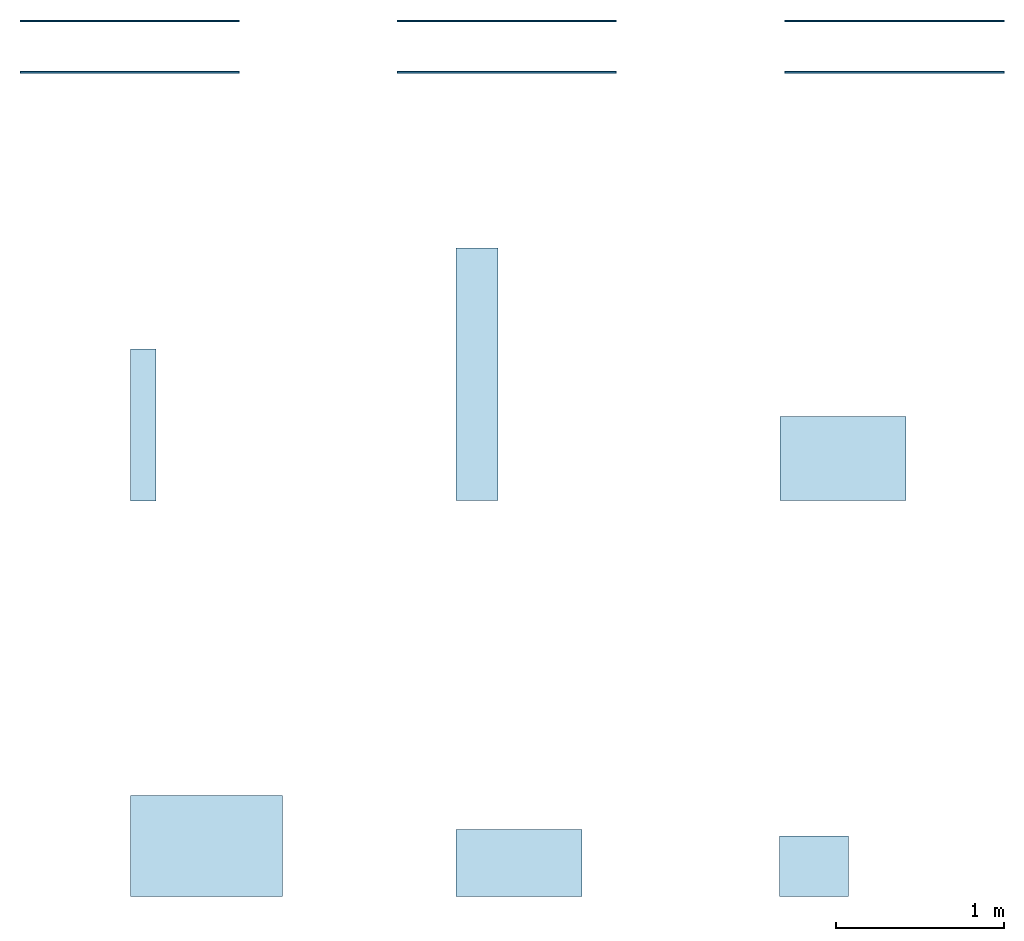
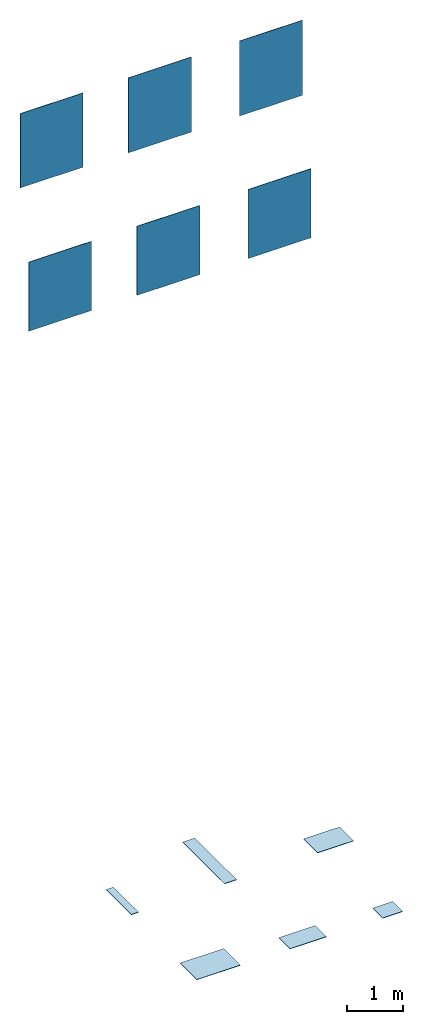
# One storey: 6 slabs, 6 walls.
"""IFC2X3 building model written with IfcOpenShell, lengths in millimetres."""

from ifc_helpers import new_model, entity, si_unit, converted_unit, derived_unit, direction, frame, frame_2d, origin, place, context, subcontext, project, spatial, rectangle, extrude, material, layer, layer_set, layer_usage, type_object, element, save


model = new_model("IFC2X3")

# Units and contexts
model_context = context("Model", 3, precision=0.01, world=origin(), true_north=direction((6.12303176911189e-17, 1.0)))
body_context = subcontext(model_context, "Body", "Model", "MODEL_VIEW")
ifc_project = project(units=[si_unit("LENGTHUNIT", "METRE", prefix="MILLI"), si_unit("AREAUNIT", "SQUARE_METRE"), si_unit("VOLUMEUNIT", "CUBIC_METRE"), converted_unit("PLANEANGLEUNIT", "DEGREE", entity("IfcRatioMeasure", 0.0174532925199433), si_unit("PLANEANGLEUNIT", "RADIAN"), dimensions=[0, 0, 0, 0, 0, 0, 0]), si_unit("MASSUNIT", "GRAM", prefix="KILO"), derived_unit("MASSDENSITYUNIT", [(si_unit("MASSUNIT", "GRAM", prefix="KILO"), 1), (si_unit("LENGTHUNIT", "METRE"), -3)]), derived_unit("MOMENTOFINERTIAUNIT", [(si_unit("LENGTHUNIT", "METRE"), 4)]), si_unit("TIMEUNIT", "SECOND"), si_unit("FREQUENCYUNIT", "HERTZ"), si_unit("THERMODYNAMICTEMPERATUREUNIT", "DEGREE_CELSIUS"), derived_unit("THERMALTRANSMITTANCEUNIT", [(si_unit("MASSUNIT", "GRAM", prefix="KILO"), 1), (si_unit("THERMODYNAMICTEMPERATUREUNIT", "KELVIN"), -1), (si_unit("TIMEUNIT", "SECOND"), -3)]), derived_unit("VOLUMETRICFLOWRATEUNIT", [(si_unit("LENGTHUNIT", "METRE"), 3), (si_unit("TIMEUNIT", "SECOND"), -1)]), si_unit("ELECTRICCURRENTUNIT", "AMPERE"), si_unit("ELECTRICVOLTAGEUNIT", "VOLT"), si_unit("POWERUNIT", "WATT"), si_unit("FORCEUNIT", "NEWTON", prefix="KILO"), si_unit("ILLUMINANCEUNIT", "LUX"), si_unit("LUMINOUSFLUXUNIT", "LUMEN"), si_unit("LUMINOUSINTENSITYUNIT", "CANDELA"), derived_unit("USERDEFINED", [(si_unit("MASSUNIT", "GRAM", prefix="KILO"), -1), (si_unit("LENGTHUNIT", "METRE"), -2), (si_unit("TIMEUNIT", "SECOND"), 3), (si_unit("LUMINOUSFLUXUNIT", "LUMEN"), 1)]), derived_unit("LINEARVELOCITYUNIT", [(si_unit("LENGTHUNIT", "METRE"), 1), (si_unit("TIMEUNIT", "SECOND"), -1)]), si_unit("PRESSUREUNIT", "PASCAL"), derived_unit("USERDEFINED", [(si_unit("LENGTHUNIT", "METRE"), -2), (si_unit("MASSUNIT", "GRAM", prefix="KILO"), 1), (si_unit("TIMEUNIT", "SECOND"), -2)]), derived_unit("LINEARFORCEUNIT", [(si_unit("MASSUNIT", "GRAM", prefix="KILO"), 1), (si_unit("LENGTHUNIT", "METRE"), 1), (si_unit("TIMEUNIT", "SECOND"), -2), (si_unit("LENGTHUNIT", "METRE"), -1)]), derived_unit("PLANARFORCEUNIT", [(si_unit("MASSUNIT", "GRAM", prefix="KILO"), 1), (si_unit("LENGTHUNIT", "METRE"), 1), (si_unit("TIMEUNIT", "SECOND"), -2), (si_unit("LENGTHUNIT", "METRE"), -2)])], contexts=[model_context])

# Site, building, storey
site_placement = place(None, origin())
site = spatial("IfcSite", under=ifc_project, at=site_placement, Name="Default", CompositionType="ELEMENT")
building_placement = place(site_placement, origin())
building = spatial("IfcBuilding", under=site, at=building_placement, CompositionType="ELEMENT")
storey_placement = place(building_placement, origin())
storey = spatial("IfcBuildingStorey", under=building, at=storey_placement, Name="Level 0", CompositionType="ELEMENT", Elevation=0.0)

# Slabs
ifc_material_1 = material(Name="Cortina-Natural-25x150 OF82")
ifc_layer_1 = layer(ifc_material_1, 9.0)
ifc_material_2 = material(Name="<Unnamed>")
ifc_layer_2 = layer(ifc_material_2, 1.0)
ifc_layer_set_1 = layer_set([ifc_layer_1, ifc_layer_2], Name="Floor:Floor_Tiles_Refin-Cortina-Natural-25x150 OF82")
ifc_layer_usage_1 = layer_usage(ifc_layer_set_1, "AXIS3", "POSITIVE", 0.0)
slab_type_1 = type_object("IfcSlabType", Name="Floor:Floor_Tiles_Refin-Cortina-Natural-25x150 OF82", PredefinedType="FLOOR", material=ifc_layer_set_1)
slab_1_placement = place(storey_placement, origin())
element("IfcSlab", 1, at=slab_1_placement, inside=storey, type_object=slab_type_1, material=ifc_layer_usage_1, Name="Floor:Floor_Tiles_Refin-Cortina-Natural-25x150 OF82", ObjectType="Floor:Floor_Tiles_Refin-Cortina-Natural-25x150 OF82", PredefinedType="FLOOR", context=body_context, shape_type="SweptSolid", body=[
    extrude(rectangle(XDim=1500.0, YDim=249.999999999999, at=frame_2d((5.11590769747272e-13, 0.0), x_axis=(1.0, 0.0))), frame((8629.16894258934, 6039.46237428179, 0.0), z_axis=(0.0, 0.0, -1.0), x_axis=(0.0, 1.0, 0.0)), (0.0, 0.0, 1.0), 10.0),
])
ifc_material_3 = material(Name="Cortina-Natural-Esagono-25x21.6 OG74")
ifc_layer_3 = layer(ifc_material_3, 9.0)
ifc_layer_4 = layer(ifc_material_2, 1.0)
ifc_layer_set_2 = layer_set([ifc_layer_3, ifc_layer_4], Name="Floor:Floor_Tiles_Refin-Cortina-Natural-Esagono-25x21.6 OG74")
ifc_layer_usage_2 = layer_usage(ifc_layer_set_2, "AXIS3", "POSITIVE", 0.0)
slab_type_2 = type_object("IfcSlabType", Name="Floor:Floor_Tiles_Refin-Cortina-Natural-Esagono-25x21.6 OG74", PredefinedType="FLOOR", material=ifc_layer_set_2)
slab_2_placement = place(storey_placement, origin())
element("IfcSlab", 2, at=slab_2_placement, inside=storey, type_object=slab_type_2, material=ifc_layer_usage_2, Name="Floor:Floor_Tiles_Refin-Cortina-Natural-Esagono-25x21.6 OG74", ObjectType="Floor:Floor_Tiles_Refin-Cortina-Natural-Esagono-25x21.6 OG74", PredefinedType="FLOOR", context=body_context, shape_type="SweptSolid", body=[
    extrude(rectangle(XDim=400.0, YDim=750.000000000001, at=frame_2d((0.0, -1.08002495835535e-12), x_axis=(1.0, 0.0))), frame((8879.16894258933, 3139.46237428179, 0.0), z_axis=(0.0, 0.0, -1.0), x_axis=(0.0, 1.0, 0.0)), (0.0, 0.0, 1.0), 10.0),
])
ifc_material_4 = material(Name="Cortina-Natural-Chalet-12.5x75 OG82")
ifc_layer_5 = layer(ifc_material_4, 9.0)
ifc_layer_6 = layer(ifc_material_2, 1.0)
ifc_layer_set_3 = layer_set([ifc_layer_5, ifc_layer_6], Name="Floor:Floor_Tiles_Refin-Cortina-Natural-Chalet-12.5x75 OG82")
ifc_layer_usage_3 = layer_usage(ifc_layer_set_3, "AXIS3", "POSITIVE", 0.0)
slab_type_3 = type_object("IfcSlabType", Name="Floor:Floor_Tiles_Refin-Cortina-Natural-Chalet-12.5x75 OG82", PredefinedType="FLOOR", material=ifc_layer_set_3)
slab_3_placement = place(storey_placement, origin())
element("IfcSlab", 3, at=slab_3_placement, inside=storey, type_object=slab_type_3, material=ifc_layer_usage_3, Name="Floor:Floor_Tiles_Refin-Cortina-Natural-Chalet-12.5x75 OG82", ObjectType="Floor:Floor_Tiles_Refin-Cortina-Natural-Chalet-12.5x75 OG82", PredefinedType="FLOOR", context=body_context, shape_type="SweptSolid", body=[
    extrude(rectangle(XDim=500.0, YDim=750.000000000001, at=frame_2d((-5.40012479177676e-13, 1.08002495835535e-12), x_axis=(1.0, 0.0))), frame((10802.1861418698, 5539.46237428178, 0.0), z_axis=(0.0, 0.0, -1.0), x_axis=(0.0, 1.0, 0.0)), (0.0, 0.0, 1.0), 10.0),
])
ifc_material_5 = material(Name="Cortina-Natural-Herringbone-36.2x41.2 OG43")
ifc_layer_7 = layer(ifc_material_5, 9.0)
ifc_layer_8 = layer(ifc_material_2, 1.0)
ifc_layer_set_4 = layer_set([ifc_layer_7, ifc_layer_8], Name="Floor:Floor_Tiles_Refin-Cortina-Natural-Herringbone-36.2x41.2 OG43")
ifc_layer_usage_4 = layer_usage(ifc_layer_set_4, "AXIS3", "POSITIVE", 0.0)
slab_type_4 = type_object("IfcSlabType", Name="Floor:Floor_Tiles_Refin-Cortina-Natural-Herringbone-36.2x41.2 OG43", PredefinedType="FLOOR", material=ifc_layer_set_4)
slab_4_placement = place(storey_placement, origin())
element("IfcSlab", 4, at=slab_4_placement, inside=storey, type_object=slab_type_4, material=ifc_layer_usage_4, Name="Floor:Floor_Tiles_Refin-Cortina-Natural-Herringbone-36.2x41.2 OG43", ObjectType="Floor:Floor_Tiles_Refin-Cortina-Natural-Herringbone-36.2x41.2 OG43", PredefinedType="FLOOR", context=body_context, shape_type="SweptSolid", body=[
    extrude(rectangle(XDim=360.0, YDim=410.0, at=frame_2d((2.70006239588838e-13, 1.09423581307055e-12), x_axis=(1.0, 0.0))), frame((10630.4118687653, 3119.46237428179, 0.0), z_axis=(0.0, 0.0, -1.0), x_axis=(0.0, 1.0, 0.0)), (0.0, 0.0, 1.0), 10.0),
])
ifc_material_6 = material(Name="Cortina-Natural-15x90 OI74")
ifc_layer_9 = layer(ifc_material_6, 9.0)
ifc_layer_10 = layer(ifc_material_2, 1.0)
ifc_layer_set_5 = layer_set([ifc_layer_9, ifc_layer_10], Name="Floor:Floor_Tiles_Refin-Cortina-Natural-15x90 OI74")
ifc_layer_usage_5 = layer_usage(ifc_layer_set_5, "AXIS3", "POSITIVE", 0.0)
slab_type_5 = type_object("IfcSlabType", Name="Floor:Floor_Tiles_Refin-Cortina-Natural-15x90 OI74", PredefinedType="FLOOR", material=ifc_layer_set_5)
slab_5_placement = place(storey_placement, origin())
element("IfcSlab", 5, at=slab_5_placement, inside=storey, type_object=slab_type_5, material=ifc_layer_usage_5, Name="Floor:Floor_Tiles_Refin-Cortina-Natural-15x90 OI74", ObjectType="Floor:Floor_Tiles_Refin-Cortina-Natural-15x90 OI74", PredefinedType="FLOOR", context=body_context, shape_type="SweptSolid", body=[
    extrude(rectangle(XDim=900.0, YDim=150.000000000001, at=frame_2d((5.40012479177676e-13, 0.0), x_axis=(1.0, 0.0))), frame((6649.37520617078, 5738.41920639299, 0.0), z_axis=(0.0, 0.0, -1.0), x_axis=(0.0, 1.0, 0.0)), (0.0, 0.0, 1.0), 10.0),
])
ifc_material_7 = material(Name="Cortina-Natural-Chalet-15x90 OG86")
ifc_layer_11 = layer(ifc_material_7, 9.0)
ifc_layer_12 = layer(ifc_material_2, 1.0)
ifc_layer_set_6 = layer_set([ifc_layer_11, ifc_layer_12], Name="Floor:Floor_Tiles_Refin-Cortina-Natural-Chalet-15x90 OG86")
ifc_layer_usage_6 = layer_usage(ifc_layer_set_6, "AXIS3", "POSITIVE", 0.0)
slab_type_6 = type_object("IfcSlabType", Name="Floor:Floor_Tiles_Refin-Cortina-Natural-Chalet-15x90 OG86", PredefinedType="FLOOR", material=ifc_layer_set_6)
slab_6_placement = place(storey_placement, origin())
element("IfcSlab", 6, at=slab_6_placement, inside=storey, type_object=slab_type_6, material=ifc_layer_usage_6, Name="Floor:Floor_Tiles_Refin-Cortina-Natural-Chalet-15x90 OG86", ObjectType="Floor:Floor_Tiles_Refin-Cortina-Natural-Chalet-15x90 OG86", PredefinedType="FLOOR", context=body_context, shape_type="SweptSolid", body=[
    extrude(rectangle(XDim=600.0, YDim=900.0, at=frame_2d((0.0, 5.40012479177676e-13), x_axis=(1.0, 0.0))), frame((7024.37520617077, 3239.4623742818, 0.0), z_axis=(0.0, 0.0, -1.0), x_axis=(0.0, 1.0, 0.0)), (0.0, 0.0, 1.0), 10.0),
])

# Walls
ifc_layer_13 = layer(ifc_material_2, 1.0)
ifc_layer_14 = layer(ifc_material_1, 9.0)
ifc_layer_set_7 = layer_set([ifc_layer_13, ifc_layer_14], Name="Basic Wall:Wall_Tiles_Refin-Cortina-Natural-25x150 OF82")
ifc_layer_usage_7 = layer_usage(ifc_layer_set_7, "AXIS2", "NEGATIVE", 5.0)
wall_type_1 = type_object("IfcWallType", Name="Basic Wall:Wall_Tiles_Refin-Cortina-Natural-25x150 OF82", PredefinedType="STANDARD", material=ifc_layer_set_7)
wall_1_placement = place(storey_placement, frame((8157.37520617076, 8137.38386313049, 14387.6770443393)))
element("IfcWallStandardCase", 7, at=wall_1_placement, inside=storey, type_object=wall_type_1, material=ifc_layer_usage_7, Name="Basic Wall:Wall_Tiles_Refin-Cortina-Natural-25x150 OF82", ObjectType="Basic Wall:Wall_Tiles_Refin-Cortina-Natural-25x150 OF82", context=body_context, shape_type="SweptSolid", body=[
    extrude(rectangle(XDim=1300.0, YDim=9.99999999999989, at=frame_2d((650.0, 7.63833440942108e-14), x_axis=(-1.0, 0.0))), origin(), (0.0, 0.0, 1.0), 1641.74173522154),
])
ifc_layer_15 = layer(ifc_material_2, 1.0)
ifc_layer_16 = layer(ifc_material_4, 9.0)
ifc_layer_set_8 = layer_set([ifc_layer_15, ifc_layer_16], Name="Basic Wall:Wall_Tiles_Refin-Cortina-Natural-Chalet-12.5x75 OG82")
ifc_layer_usage_8 = layer_usage(ifc_layer_set_8, "AXIS2", "NEGATIVE", 5.0)
wall_type_2 = type_object("IfcWallType", Name="Basic Wall:Wall_Tiles_Refin-Cortina-Natural-Chalet-12.5x75 OG82", PredefinedType="STANDARD", material=ifc_layer_set_8)
wall_2_placement = place(storey_placement, frame((10457.3752061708, 8137.38386313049, 14387.6770443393)))
element("IfcWallStandardCase", 8, at=wall_2_placement, inside=storey, type_object=wall_type_2, material=ifc_layer_usage_8, Name="Basic Wall:Wall_Tiles_Refin-Cortina-Natural-Chalet-12.5x75 OG82", ObjectType="Basic Wall:Wall_Tiles_Refin-Cortina-Natural-Chalet-12.5x75 OG82", context=body_context, shape_type="SweptSolid", body=[
    extrude(rectangle(XDim=1300.0, YDim=9.99999999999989, at=frame_2d((650.0, 7.63833440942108e-14), x_axis=(-1.0, 0.0))), origin(), (0.0, 0.0, 1.0), 1641.74173522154),
])
ifc_layer_17 = layer(ifc_material_2, 1.0)
ifc_layer_18 = layer(ifc_material_6, 9.0)
ifc_layer_set_9 = layer_set([ifc_layer_17, ifc_layer_18], Name="Basic Wall:Wall_Tiles_Refin-Cortina-Natural-15x90 OI74")
ifc_layer_usage_9 = layer_usage(ifc_layer_set_9, "AXIS2", "NEGATIVE", 5.0)
wall_type_3 = type_object("IfcWallType", Name="Basic Wall:Wall_Tiles_Refin-Cortina-Natural-15x90 OI74", PredefinedType="STANDARD", material=ifc_layer_set_9)
wall_3_placement = place(storey_placement, frame((5917.37520617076, 8137.38386313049, 14403.726734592)))
element("IfcWallStandardCase", 9, at=wall_3_placement, inside=storey, type_object=wall_type_3, material=ifc_layer_usage_9, Name="Basic Wall:Wall_Tiles_Refin-Cortina-Natural-15x90 OI74", ObjectType="Basic Wall:Wall_Tiles_Refin-Cortina-Natural-15x90 OI74", context=body_context, shape_type="SweptSolid", body=[
    extrude(rectangle(XDim=1300.0, YDim=9.99999999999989, at=frame_2d((650.0, 7.63833440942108e-14), x_axis=(-1.0, 0.0))), origin(), (0.0, 0.0, 1.0), 1625.69204496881),
])
ifc_layer_19 = layer(ifc_material_2, 1.0)
ifc_layer_20 = layer(ifc_material_7, 9.0)
ifc_layer_set_10 = layer_set([ifc_layer_19, ifc_layer_20], Name="Basic Wall:Wall_Tiles_Refin-Cortina-Natural-Chalet-15x90 OG86")
ifc_layer_usage_10 = layer_usage(ifc_layer_set_10, "AXIS2", "NEGATIVE", 5.0)
wall_type_4 = type_object("IfcWallType", Name="Basic Wall:Wall_Tiles_Refin-Cortina-Natural-Chalet-15x90 OG86", PredefinedType="STANDARD", material=ifc_layer_set_10)
wall_4_placement = place(storey_placement, frame((5917.37520617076, 7832.38386313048, 11452.5436262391)))
element("IfcWallStandardCase", 10, at=wall_4_placement, inside=storey, type_object=wall_type_4, material=ifc_layer_usage_10, Name="Basic Wall:Wall_Tiles_Refin-Cortina-Natural-Chalet-15x90 OG86", ObjectType="Basic Wall:Wall_Tiles_Refin-Cortina-Natural-Chalet-15x90 OG86", context=body_context, shape_type="SweptSolid", body=[
    extrude(rectangle(XDim=1300.0, YDim=9.99999999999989, at=frame_2d((650.0, 0.0), x_axis=(-1.0, 0.0))), origin(), (0.0, 0.0, 1.0), 1513.19855655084),
])
ifc_layer_21 = layer(ifc_material_2, 1.0)
ifc_layer_22 = layer(ifc_material_3, 9.0)
ifc_layer_set_11 = layer_set([ifc_layer_21, ifc_layer_22], Name="Basic Wall:Wall_Tiles_Refin-Cortina-Natural-Esagono-25x21.6 OG74")
ifc_layer_usage_11 = layer_usage(ifc_layer_set_11, "AXIS2", "NEGATIVE", 5.0)
wall_type_5 = type_object("IfcWallType", Name="Basic Wall:Wall_Tiles_Refin-Cortina-Natural-Esagono-25x21.6 OG74", PredefinedType="STANDARD", material=ifc_layer_set_11)
wall_5_placement = place(storey_placement, frame((8157.37520617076, 7832.38386313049, 11452.5436262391)))
element("IfcWallStandardCase", 11, at=wall_5_placement, inside=storey, type_object=wall_type_5, material=ifc_layer_usage_11, Name="Basic Wall:Wall_Tiles_Refin-Cortina-Natural-Esagono-25x21.6 OG74", ObjectType="Basic Wall:Wall_Tiles_Refin-Cortina-Natural-Esagono-25x21.6 OG74", context=body_context, shape_type="SweptSolid", body=[
    extrude(rectangle(XDim=1300.0, YDim=9.99999999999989, at=frame_2d((650.0, 0.0), x_axis=(-1.0, 0.0))), origin(), (0.0, 0.0, 1.0), 1513.19855655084),
])
ifc_layer_23 = layer(ifc_material_2, 1.0)
ifc_layer_24 = layer(ifc_material_5, 9.0)
ifc_layer_set_12 = layer_set([ifc_layer_23, ifc_layer_24], Name="Basic Wall:Wall_Tiles_Refin-Cortina-Natural-Herringbone-36.2x41.2 OG43")
ifc_layer_usage_12 = layer_usage(ifc_layer_set_12, "AXIS2", "NEGATIVE", 5.0)
wall_type_6 = type_object("IfcWallType", Name="Basic Wall:Wall_Tiles_Refin-Cortina-Natural-Herringbone-36.2x41.2 OG43", PredefinedType="STANDARD", material=ifc_layer_set_12)
wall_6_placement = place(storey_placement, frame((10457.3752061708, 7832.38386313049, 11452.5436262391)))
element("IfcWallStandardCase", 12, at=wall_6_placement, inside=storey, type_object=wall_type_6, material=ifc_layer_usage_12, Name="Basic Wall:Wall_Tiles_Refin-Cortina-Natural-Herringbone-36.2x41.2 OG43", ObjectType="Basic Wall:Wall_Tiles_Refin-Cortina-Natural-Herringbone-36.2x41.2 OG43", context=body_context, shape_type="SweptSolid", body=[
    extrude(rectangle(XDim=1300.0, YDim=9.99999999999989, at=frame_2d((650.000000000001, 0.0), x_axis=(-1.0, 0.0))), origin(), (0.0, 0.0, 1.0), 1513.19855655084),
])

save(model, "model.ifc")
